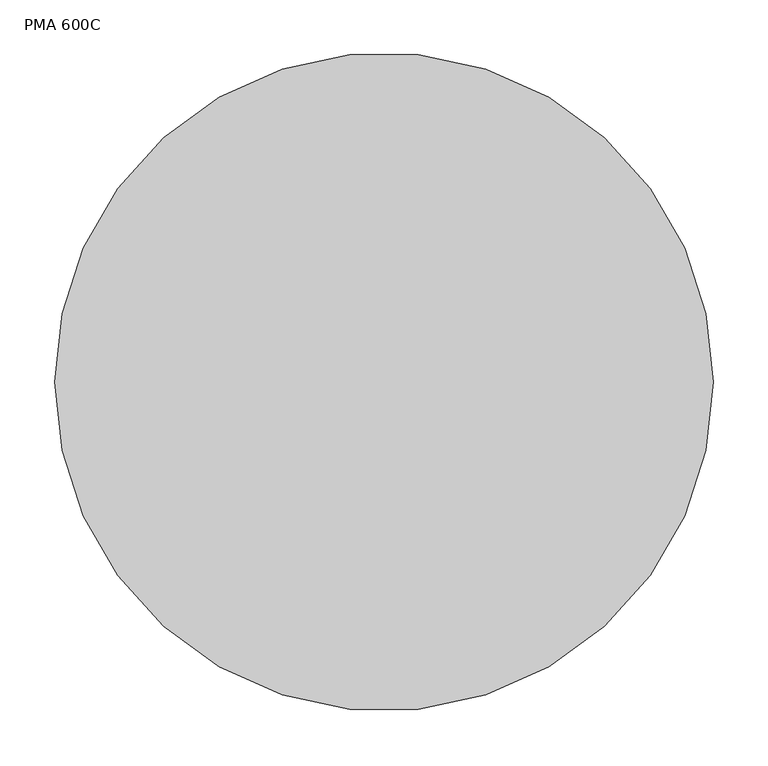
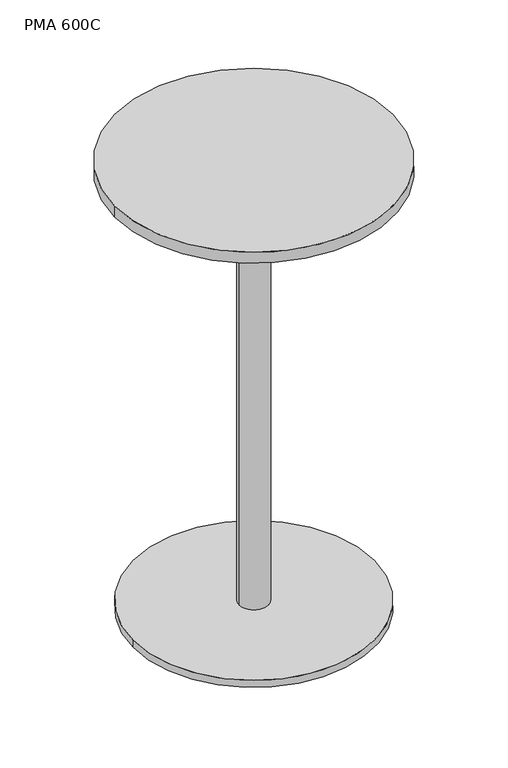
"""IFC4 building model written with IfcOpenShell, lengths in millimetres: furniture geometry, Mobiliário_MobiliáriodeEscritório_LinhaPERFECTA_Mesa Lateral - PMA600C, PMM600C e PMB600C_Marelli : PMA 600C."""

from ifc_helpers import new_model, si_unit, point, frame, origin, origin_with_axes, origin_2d, place, context, project, spatial, polyline, circle_curve, trimmed, segment, composite_curve, outline, extrude, source, transform, mapped, element, save
from ifc_brep_helpers import plane_surface, cylinder_surface, revolved_surface, advanced_brep


def pma_600c_4e580cb3(model_context):
    return source(origin(), model_context, "Body", "SolidModel", [
        extrude(outline(composite_curve([segment(trimmed(circle_curve(origin_2d(), 260.5), [point((-260.5, 0.0))], [point((260.5, 0.0))], False, "CARTESIAN"), True, "CONTINUOUS"), segment(trimmed(circle_curve(origin_2d(), 260.5), [point((260.5, 0.0))], [point((-260.5, 0.0))], False, "CARTESIAN"), True, "CONTINUOUS")], self_intersect=False)), origin_with_axes(), (0.0, 0.0, 1.0), 16.0),
        extrude(outline(composite_curve([segment(trimmed(circle_curve(origin_2d(), 31.75), [point((-31.75, 0.0))], [point((31.75, 0.0))], False, "CARTESIAN"), True, "CONTINUOUS"), segment(trimmed(circle_curve(origin_2d(), 31.75), [point((31.75, 0.0))], [point((-31.75, 0.0))], False, "CARTESIAN"), True, "CONTINUOUS")], self_intersect=False)), frame((0.0, 0.0, 16.0), z_axis=(0.0, 0.0, 1.0), x_axis=(1.0, 0.0, 0.0)), (0.0, 0.0, 1.0), 974.0),
        extrude(outline(composite_curve([segment(trimmed(circle_curve(origin_2d(), 300.0), [point((-300.0, 0.0))], [point((300.0, 0.0))], False, "CARTESIAN"), True, "CONTINUOUS"), segment(trimmed(circle_curve(origin_2d(), 300.0), [point((300.0, 0.0))], [point((-300.0, 0.0))], False, "CARTESIAN"), True, "CONTINUOUS")], self_intersect=False)), frame((0.0, 0.0, 994.9999997), z_axis=(0.0, 0.0, 1.0), x_axis=(1.0, 0.0, 0.0)), (0.0, 0.0, 1.0), 25.0),
        advanced_brep(
        [(20.1969986, -140.0586969, 994.9999997), (138.8599, -21.3957955, 994.9999997), (194.9999917, -21.3957955, 994.9999997), (199.9999953, -16.3957919, 994.9999997), (199.9999953, 15.2038963, 994.9999997), (194.9999917, 20.2039, 994.9999997), (138.0000007, 20.2039, 994.9999997), (20.1969986, 138.006902, 994.9999997), (20.1969986, 195.8667969, 994.9999997), (15.196995, 200.8668006, 994.9999997), (-16.4030021, 200.8668006, 994.9999997), (-21.4030057, 195.8667969, 994.9999997), (-21.4030057, 138.0068975, 994.9999997), (-139.2060032, 20.2039, 994.9999997), (-196.2059988, 20.2039, 994.9999997), (-201.2060024, 15.2038963, 994.9999997), (-201.2060024, -16.3957919, 994.9999997), (-196.2059988, -21.3957955, 994.9999997), (-139.2060032, -21.3957955, 994.9999997), (-21.4030057, -139.198793, 994.9999997), (-21.4030057, -197.0586925, 994.9999997), (-16.4030021, -202.0586961, 994.9999997), (15.196995, -202.0586961, 994.9999997), (20.1969986, -197.0586925, 994.9999997), (20.1969986, -140.0586969, 980.0), (20.1969986, -197.0586925, 980.0), (15.196995, -202.0586961, 980.0), (-16.4030021, -202.0586961, 980.0), (-21.4030057, -197.0586925, 980.0), (-21.4030057, -139.198793, 980.0), (-139.2060032, -21.3957955, 980.0), (-196.2059988, -21.3957955, 980.0), (-201.2060024, -16.3957919, 980.0), (-195.8811036, -16.4400335, 980.0), (-138.9263985, -16.4400335, 980.0), (-16.4472375, -138.9191945, 980.0), (-16.4472375, -197.102942, 980.0), (15.2412353, -197.102942, 980.0), (15.2412353, -139.7354648, 980.0), (138.5366665, -16.4400335, 980.0), (194.6748504, -16.4400335, 980.0), (199.9999953, -16.4400335, 980.0), (194.9999917, -21.3957955, 980.0), (138.8599, -21.3957955, 980.0), (-201.2060024, 15.2038963, 980.0), (-196.2059988, 20.2039, 980.0), (-139.2060032, 20.2039, 980.0), (-21.4030057, 138.0068975, 980.0), (-21.4030057, 195.8667969, 980.0), (-16.4030021, 200.8668006, 980.0), (15.196995, 200.8668006, 980.0), (20.1969986, 195.8667969, 980.0), (20.1969986, 138.006902, 980.0), (138.0000007, 20.2039, 980.0), (194.9999917, 20.2039, 980.0), (199.9999953, 15.2038963, 980.0), (194.6750321, 15.2481486, 980.0), (138.5985857, 15.2481486, 980.0), (15.2412353, 138.6054991, 980.0), (15.2412353, 195.9112309, 980.0), (-16.4472375, 195.9112309, 980.0), (-16.4472375, 137.6654947, 980.0), (-138.8645836, 15.2481486, 980.0), (-194.4316843, 15.2481486, 980.0), (199.9997996, -16.4400335, 990.0), (199.9999953, 15.2038963, 990.0), (-201.2058066, 15.2481486, 990.0), (-201.2060024, -16.3957919, 990.0), (-16.4472375, -138.9191945, 990.0), (-138.9263985, -16.4400335, 990.0), (-195.8811036, -16.4400335, 990.0), (-194.4316843, 15.2481486, 990.0), (-138.8645836, 15.2481486, 990.0), (-16.4472375, 137.6654947, 990.0), (-16.4472375, 195.9112309, 990.0), (15.2412353, 195.9112309, 990.0), (15.2412353, 138.6054991, 990.0), (138.5985857, 15.2481486, 990.0), (194.6750321, 15.2481486, 990.0), (194.6748504, -16.4400335, 990.0), (138.5366665, -16.4400335, 990.0), (15.2412353, -139.7354648, 990.0), (15.2412353, -197.102942, 990.0), (-16.4472375, -197.102942, 990.0)],
        [
            (0, 1, circle_curve(frame((138.8599, -140.0586969, 994.9999997), z_axis=(0.0, 0.0, -1.0), x_axis=(1.0, 0.0, 0.0)), 118.6629014)),
            (1, 2),
            (2, 3, circle_curve(frame((194.9999917, -16.3957919, 994.9999997), z_axis=(0.0, 0.0, 1.0), x_axis=(-1.0, 0.0, 0.0)), 5.0000037)),
            (3, 4),
            (4, 5, circle_curve(frame((194.9999917, 15.2038963, 994.9999997), z_axis=(0.0, 0.0, 1.0), x_axis=(-1.0, 0.0, 0.0)), 5.0000037)),
            (5, 6),
            (6, 7, circle_curve(frame((138.0000007, 138.006902, 994.9999997), z_axis=(0.0, 0.0, -1.0), x_axis=(1.0, 0.0, 0.0)), 117.803002)),
            (7, 8),
            (8, 9, circle_curve(frame((15.196995, 195.8667969, 994.9999997), z_axis=(0.0, 0.0, 1.0), x_axis=(1.0, 0.0, 0.0)), 5.0000037)),
            (9, 10),
            (10, 11, circle_curve(frame((-16.4030021, 195.8667969, 994.9999997), z_axis=(0.0, 0.0, 1.0), x_axis=(1.0, 0.0, 0.0)), 5.0000037)),
            (11, 12),
            (12, 13, circle_curve(frame((-139.2060032, 138.0068975, 994.9999997), z_axis=(0.0, 0.0, -1.0), x_axis=(1.0, 0.0, 0.0)), 117.8029975)),
            (13, 14),
            (14, 15, circle_curve(frame((-196.2059988, 15.2038963, 994.9999997), z_axis=(0.0, 0.0, 1.0), x_axis=(1.0, 0.0, 0.0)), 5.0000037)),
            (15, 16),
            (16, 17, circle_curve(frame((-196.2059988, -16.3957919, 994.9999997), z_axis=(0.0, 0.0, 1.0), x_axis=(1.0, 0.0, 0.0)), 5.0000037)),
            (17, 18),
            (18, 19, circle_curve(frame((-139.2060032, -139.198793, 994.9999997), z_axis=(0.0, 0.0, -1.0), x_axis=(1.0, 0.0, 0.0)), 117.8029975)),
            (19, 20),
            (20, 21, circle_curve(frame((-16.4030021, -197.0586925, 994.9999997), z_axis=(0.0, 0.0, 1.0), x_axis=(1.0, 0.0, 0.0)), 5.0000037)),
            (21, 22),
            (22, 23, circle_curve(frame((15.196995, -197.0586925, 994.9999997), z_axis=(0.0, 0.0, 1.0), x_axis=(1.0, 0.0, 0.0)), 5.0000037)),
            (23, 0),
            (24, 25),
            (25, 26, circle_curve(frame((15.196995, -197.0586925, 980.0), z_axis=(0.0, 0.0, -1.0), x_axis=(1.0, 0.0, 0.0)), 5.0000037)),
            (26, 27),
            (27, 28, circle_curve(frame((-16.4030021, -197.0586925, 980.0), z_axis=(0.0, 0.0, -1.0), x_axis=(1.0, 0.0, 0.0)), 5.0000037)),
            (28, 29),
            (29, 30, circle_curve(frame((-139.2060032, -139.198793, 980.0), z_axis=(0.0, 0.0, 1.0), x_axis=(1.0, 0.0, 0.0)), 117.8029975)),
            (30, 31),
            (31, 32, circle_curve(frame((-196.2059988, -16.3957919, 980.0), z_axis=(0.0, 0.0, -1.0), x_axis=(1.0, 0.0, 0.0)), 5.0000037)),
            (32, 33),
            (33, 34),
            (34, 35, circle_curve(frame((-138.9263985, -138.9191945, 980.0), z_axis=(0.0, 0.0, -1.0), x_axis=(1.0, 0.0, 0.0)), 122.479161)),
            (35, 36),
            (36, 37),
            (37, 38),
            (38, 39, circle_curve(frame((138.5366665, -139.7354648, 980.0), z_axis=(0.0, 0.0, -1.0), x_axis=(1.0, 0.0, 0.0)), 123.2954313)),
            (39, 40),
            (40, 41),
            (41, 42, circle_curve(frame((194.9999917, -16.3957919, 980.0), z_axis=(0.0, 0.0, -1.0), x_axis=(-1.0, 0.0, 0.0)), 5.0000037)),
            (42, 43),
            (43, 24, circle_curve(frame((138.8599, -140.0586969, 980.0), z_axis=(0.0, 0.0, 1.0), x_axis=(1.0, 0.0, 0.0)), 118.6629014)),
            (44, 45, circle_curve(frame((-196.2059988, 15.2038963, 980.0), z_axis=(0.0, 0.0, -1.0), x_axis=(1.0, 0.0, 0.0)), 5.0000037)),
            (45, 46),
            (46, 47, circle_curve(frame((-139.2060032, 138.0068975, 980.0), z_axis=(0.0, 0.0, 1.0), x_axis=(1.0, 0.0, 0.0)), 117.8029975)),
            (47, 48),
            (48, 49, circle_curve(frame((-16.4030021, 195.8667969, 980.0), z_axis=(0.0, 0.0, -1.0), x_axis=(1.0, 0.0, 0.0)), 5.0000037)),
            (49, 50),
            (50, 51, circle_curve(frame((15.196995, 195.8667969, 980.0), z_axis=(0.0, 0.0, -1.0), x_axis=(1.0, 0.0, 0.0)), 5.0000037)),
            (51, 52),
            (52, 53, circle_curve(frame((138.0000007, 138.006902, 980.0), z_axis=(0.0, 0.0, 1.0), x_axis=(1.0, 0.0, 0.0)), 117.803002)),
            (53, 54),
            (54, 55, circle_curve(frame((194.9999917, 15.2038963, 980.0), z_axis=(0.0, 0.0, -1.0), x_axis=(-1.0, 0.0, 0.0)), 5.0000037)),
            (55, 56),
            (56, 57),
            (57, 58, circle_curve(frame((138.5985857, 138.6054991, 980.0), z_axis=(0.0, 0.0, -1.0), x_axis=(1.0, 0.0, 0.0)), 123.3573505)),
            (58, 59),
            (59, 60),
            (60, 61),
            (61, 62, circle_curve(frame((-138.8645836, 137.6654947, 980.0), z_axis=(0.0, 0.0, -1.0), x_axis=(1.0, 0.0, 0.0)), 122.4173461)),
            (62, 63),
            (63, 44),
            (0, 24),
            (43, 1),
            (42, 2),
            (41, 64),
            (64, 3),
            (64, 65),
            (65, 4),
            (65, 55),
            (54, 5),
            (53, 6),
            (52, 7),
            (51, 8),
            (50, 9),
            (49, 10),
            (48, 11),
            (47, 12),
            (46, 13),
            (45, 14),
            (44, 66),
            (66, 15),
            (66, 67),
            (67, 16),
            (67, 32),
            (31, 17),
            (30, 18),
            (29, 19),
            (28, 20),
            (27, 21),
            (26, 22),
            (25, 23),
            (68, 69, circle_curve(frame((-138.9263985, -138.9191945, 990.0), z_axis=(0.0, 0.0, 1.0), x_axis=(1.0, 0.0, 0.0)), 122.479161)),
            (69, 70),
            (70, 67),
            (66, 71),
            (71, 72),
            (72, 73, circle_curve(frame((-138.8645836, 137.6654947, 990.0), z_axis=(0.0, 0.0, 1.0), x_axis=(1.0, 0.0, 0.0)), 122.4173461)),
            (73, 74),
            (74, 75),
            (75, 76),
            (76, 77, circle_curve(frame((138.5985857, 138.6054991, 990.0), z_axis=(0.0, 0.0, 1.0), x_axis=(1.0, 0.0, 0.0)), 123.3573505)),
            (77, 78),
            (78, 65),
            (64, 79),
            (79, 80),
            (80, 81, circle_curve(frame((138.5366665, -139.7354648, 990.0), z_axis=(0.0, 0.0, 1.0), x_axis=(1.0, 0.0, 0.0)), 123.2954313)),
            (81, 82),
            (82, 83),
            (83, 68),
            (83, 36),
            (35, 68),
            (82, 37),
            (81, 38),
            (80, 39),
            (79, 40),
            (78, 56),
            (77, 57),
            (76, 58),
            (75, 59),
            (74, 60),
            (73, 61),
            (72, 62),
            (71, 63),
            (70, 33),
            (69, 34),
        ],
        [
            plane_surface(frame((257.5228014, -140.0586969, 994.9999997), z_axis=(0.0, 0.0, 1.0), x_axis=(0.0, -1.0, 0.0))),
            plane_surface(frame((257.5228014, -140.0586969, 980.0), z_axis=(0.0, 0.0, -1.0), x_axis=(0.0, 1.0, 0.0))),
            revolved_surface(polyline([(257.5228014, -140.0586969, 980.0), (257.5228014, -140.0586969, 994.9999997)]), (138.8599, -140.0586969, 980.0), (0.0, 0.0, -1.0)),
            plane_surface(frame((138.8599, -21.3957955, 994.9999997), z_axis=(0.0, -1.0, 0.0), x_axis=(0.0, 0.0, -1.0))),
            cylinder_surface(frame((194.9999917, -16.3957919, 980.0), z_axis=(0.0, 0.0, 1.0), x_axis=(-1.0, 0.0, 0.0)), 5.0000037),
            plane_surface(frame((199.9999953, -16.3957919, 994.9999997), z_axis=(1.0, 0.0, 0.0), x_axis=(0.0, 0.0, -1.0))),
            cylinder_surface(frame((194.9999917, 15.2038963, 980.0), z_axis=(0.0, 0.0, 1.0), x_axis=(-1.0, 0.0, 0.0)), 5.0000037),
            plane_surface(frame((194.9999917, 20.2039, 994.9999997), z_axis=(0.0, 1.0, 0.0), x_axis=(0.0, 0.0, -1.0))),
            revolved_surface(polyline([(255.80300269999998, 138.006902, 980.0), (255.80300269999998, 138.006902, 994.9999997)]), (138.0000007, 138.006902, 980.0), (0.0, 0.0, -1.0)),
            plane_surface(frame((20.1969986, 138.006902, 994.9999997), z_axis=(1.0, 0.0, 0.0), x_axis=(0.0, 0.0, -1.0))),
            cylinder_surface(frame((15.196995, 195.8667969, 980.0), z_axis=(0.0, 0.0, 1.0), x_axis=(1.0, 0.0, 0.0)), 5.0000037),
            plane_surface(frame((15.196995, 200.8668006, 994.9999997), z_axis=(0.0, 1.0, 0.0), x_axis=(0.0, 0.0, -1.0))),
            cylinder_surface(frame((-16.4030021, 195.8667969, 980.0), z_axis=(0.0, 0.0, 1.0), x_axis=(1.0, 0.0, 0.0)), 5.0000037),
            plane_surface(frame((-21.4030057, 195.8667969, 994.9999997), z_axis=(-1.0, 0.0, 0.0), x_axis=(0.0, 0.0, -1.0))),
            revolved_surface(polyline([(-21.403005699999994, 138.0068975, 980.0), (-21.403005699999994, 138.0068975, 994.9999997)]), (-139.2060032, 138.0068975, 980.0), (0.0, 0.0, -1.0)),
            plane_surface(frame((-139.2060032, 20.2039, 994.9999997), z_axis=(0.0, 1.0, 0.0), x_axis=(0.0, 0.0, -1.0))),
            cylinder_surface(frame((-196.2059988, 15.2038963, 980.0), z_axis=(0.0, 0.0, 1.0), x_axis=(1.0, 0.0, 0.0)), 5.0000037),
            plane_surface(frame((-201.2060024, 15.2038963, 994.9999997), z_axis=(-1.0, 0.0, 0.0), x_axis=(0.0, 0.0, -1.0))),
            cylinder_surface(frame((-196.2059988, -16.3957919, 980.0), z_axis=(0.0, 0.0, 1.0), x_axis=(1.0, 0.0, 0.0)), 5.0000037),
            plane_surface(frame((-196.2059988, -21.3957955, 994.9999997), z_axis=(0.0, -1.0, 0.0), x_axis=(0.0, 0.0, -1.0))),
            revolved_surface(polyline([(-21.403005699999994, -139.198793, 980.0), (-21.403005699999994, -139.198793, 994.9999997)]), (-139.2060032, -139.198793, 980.0), (0.0, 0.0, -1.0)),
            plane_surface(frame((-21.4030057, -139.198793, 994.9999997), z_axis=(-1.0, 0.0, 0.0), x_axis=(0.0, 0.0, -1.0))),
            cylinder_surface(frame((-16.4030021, -197.0586925, 980.0), z_axis=(0.0, 0.0, 1.0), x_axis=(1.0, 0.0, 0.0)), 5.0000037),
            plane_surface(frame((-16.4030021, -202.0586961, 994.9999997), z_axis=(0.0, -1.0, 0.0), x_axis=(0.0, 0.0, -1.0))),
            cylinder_surface(frame((15.196995, -197.0586925, 980.0), z_axis=(0.0, 0.0, 1.0), x_axis=(1.0, 0.0, 0.0)), 5.0000037),
            plane_surface(frame((20.1969986, -197.0586925, 994.9999997), z_axis=(1.0, 0.0, 0.0), x_axis=(0.0, 0.0, -1.0))),
            plane_surface(frame((-16.4472375, -196.7326941, 990.0), z_axis=(0.0, 0.0, -1.0), x_axis=(0.0, -1.0, 0.0))),
            plane_surface(frame((-16.4472375, -138.9191945, 990.0), z_axis=(1.0, 0.0, 0.0), x_axis=(0.0, 0.0, -1.0))),
            plane_surface(frame((-16.4472375, -197.102942, 990.0), z_axis=(0.0, 1.0, 0.0), x_axis=(0.0, 0.0, -1.0))),
            plane_surface(frame((15.2412353, -197.102942, 990.0), z_axis=(-1.0, 0.0, 0.0), x_axis=(0.0, 0.0, -1.0))),
            cylinder_surface(frame((138.5366665, -139.7354648, 937.3795598), z_axis=(0.0, 0.0, -1.0), x_axis=(1.0, 0.0, 0.0)), 123.2954313),
            plane_surface(frame((138.5366665, -16.4400335, 990.0), z_axis=(0.0, 1.0, 0.0), x_axis=(0.0, 0.0, -1.0))),
            plane_surface(frame((194.6748504, -16.4400335, 990.0), z_axis=(0.0, 1.0, 0.0), x_axis=(0.0, 0.0, -1.0))),
            plane_surface(frame((209.9999953, 15.2481486, 990.0), z_axis=(0.0, -1.0, 0.0), x_axis=(0.0, 0.0, -1.0))),
            plane_surface(frame((194.6750321, 15.2481486, 990.0), z_axis=(0.0, -1.0, 0.0), x_axis=(0.0, 0.0, -1.0))),
            cylinder_surface(frame((138.5985857, 138.6054991, 937.3795598), z_axis=(0.0, 0.0, -1.0), x_axis=(1.0, 0.0, 0.0)), 123.3573505),
            plane_surface(frame((15.2412353, 138.6054991, 990.0), z_axis=(-1.0, 0.0, 0.0), x_axis=(0.0, 0.0, -1.0))),
            plane_surface(frame((15.2412353, 195.9112309, 990.0), z_axis=(0.0, -1.0, 0.0), x_axis=(0.0, 0.0, -1.0))),
            plane_surface(frame((-16.4472375, 195.9112309, 990.0), z_axis=(1.0, 0.0, 0.0), x_axis=(0.0, 0.0, -1.0))),
            cylinder_surface(frame((-138.8645836, 137.6654947, 937.3795598), z_axis=(0.0, 0.0, -1.0), x_axis=(1.0, 0.0, 0.0)), 122.4173461),
            plane_surface(frame((-138.8645836, 15.2481486, 990.0), z_axis=(0.0, -1.0, 0.0), x_axis=(0.0, 0.0, -1.0))),
            plane_surface(frame((-194.4316843, 15.2481486, 990.0), z_axis=(0.0, -1.0, 0.0), x_axis=(0.0, 0.0, -1.0))),
            plane_surface(frame((-211.2, -16.4400335, 990.0), z_axis=(0.0, 1.0, 0.0), x_axis=(0.0, 0.0, -1.0))),
            plane_surface(frame((-195.8811036, -16.4400335, 990.0), z_axis=(0.0, 1.0, 0.0), x_axis=(0.0, 0.0, -1.0))),
            cylinder_surface(frame((-138.9263985, -138.9191945, 937.3795598), z_axis=(0.0, 0.0, -1.0), x_axis=(1.0, 0.0, 0.0)), 122.479161),
        ],
        [
            (0, [[1, 2, 3, 4, 5, 6, 7, 8, 9, 10, 11, 12, 13, 14, 15, 16, 17, 18, 19, 20, 21, 22, 23, 24]]),
            (1, [[25, 26, 27, 28, 29, 30, 31, 32, 33, 34, 35, 36, 37, 38, 39, 40, 41, 42, 43, 44]]),
            (1, [[45, 46, 47, 48, 49, 50, 51, 52, 53, 54, 55, 56, 57, 58, 59, 60, 61, 62, 63, 64]]),
            (2, [[-1, 65, -44, 66]]),
            (3, [[-2, -66, -43, 67]]),
            (4, [[-3, -67, -42, 68, 69]]),
            (5, [[-4, -69, 70, 71]]),
            (6, [[-5, -71, 72, -55, 73]]),
            (7, [[-6, -73, -54, 74]]),
            (8, [[-7, -74, -53, 75]]),
            (9, [[-8, -75, -52, 76]]),
            (10, [[-9, -76, -51, 77]]),
            (11, [[-10, -77, -50, 78]]),
            (12, [[-11, -78, -49, 79]]),
            (13, [[-12, -79, -48, 80]]),
            (14, [[-13, -80, -47, 81]]),
            (15, [[-14, -81, -46, 82]]),
            (16, [[-15, -82, -45, 83, 84]]),
            (17, [[-16, -84, 85, 86]]),
            (18, [[-17, -86, 87, -32, 88]]),
            (19, [[-18, -88, -31, 89]]),
            (20, [[-19, -89, -30, 90]]),
            (21, [[-20, -90, -29, 91]]),
            (22, [[-21, -91, -28, 92]]),
            (23, [[-22, -92, -27, 93]]),
            (24, [[-23, -93, -26, 94]]),
            (25, [[-24, -94, -25, -65]]),
            (26, [[95, 96, 97, -85, 98, 99, 100, 101, 102, 103, 104, 105, 106, -70, 107, 108, 109, 110, 111, 112]]),
            (27, [[-112, 113, -36, 114]]),
            (28, [[-111, 115, -37, -113]]),
            (29, [[-110, 116, -38, -115]]),
            (30, [[-109, 117, -39, -116]]),
            (31, [[-108, 118, -40, -117]]),
            (32, [[-107, -68, -41, -118]]),
            (33, [[-106, 119, -56, -72]]),
            (34, [[-105, 120, -57, -119]]),
            (35, [[-104, 121, -58, -120]]),
            (36, [[-103, 122, -59, -121]]),
            (37, [[-102, 123, -60, -122]]),
            (38, [[-101, 124, -61, -123]]),
            (39, [[-100, 125, -62, -124]]),
            (40, [[-99, 126, -63, -125]]),
            (41, [[-98, -83, -64, -126]]),
            (42, [[-97, 127, -33, -87]]),
            (43, [[-96, 128, -34, -127]]),
            (44, [[-95, -114, -35, -128]]),
        ],
    ),
    ])


if __name__ == "__main__":
    model = new_model("IFC4")
    model_context = context("Model", 3, world=origin())
    ifc_project = project(units=[si_unit("LENGTHUNIT", "METRE", prefix="MILLI")], contexts=[model_context])
    site = spatial("IfcSite", under=ifc_project)
    building = spatial("IfcBuilding", under=site)
    placement = place(None, origin())
    pma_600c_shape = pma_600c_4e580cb3(model_context)
    element("IfcFurniture", 1, ObjectType="Mobiliário_MobiliáriodeEscritório_LinhaPERFECTA_Mesa Lateral - PMA600C, PMM600C e PMB600C_Marelli : PMA 600C", at=placement, inside=building, context=model_context, shape_type="MappedRepresentation", body=[
        mapped(pma_600c_shape, transform((0.0, 0.0, 0.0), x_axis=(1.0, 0.0, 0.0), y_axis=(0.0, 1.0, 0.0), z_axis=(0.0, 0.0, 1.0))),
    ])
    save(model, "model.ifc")
